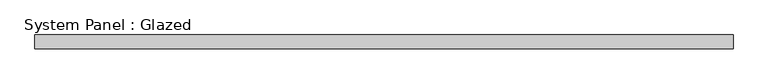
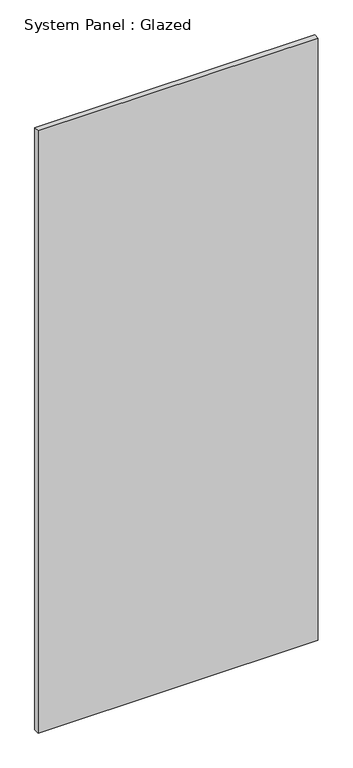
"""IFC4 building model written with IfcOpenShell, lengths in millimetres: plate geometry, System Panel : Glazed."""

from ifc_helpers import new_model, si_unit, origin, origin_with_axes, place, context, project, spatial, polyline, outline, extrude, source, transform, mapped, element, save


def system_panel_glazed_7117b3d7(model_context):
    return source(origin(), model_context, "Body", "SweptSolid", [
        extrude(outline(polyline([(650.0467279, 19.05), (-650.0467279, 19.05), (-650.0467279, 44.45), (650.0467279, 44.45), (650.0467279, 19.05)])), origin_with_axes(), (0.0, 0.0, 1.0), 2952.75),
    ])


if __name__ == "__main__":
    model = new_model("IFC4")
    model_context = context("Model", 3, world=origin())
    ifc_project = project(units=[si_unit("LENGTHUNIT", "METRE", prefix="MILLI")], contexts=[model_context])
    site = spatial("IfcSite", under=ifc_project)
    building = spatial("IfcBuilding", under=site)
    placement = place(None, origin())
    system_panel_glazed_shape = system_panel_glazed_7117b3d7(model_context)
    element("IfcPlate", 1, ObjectType="System Panel : Glazed", at=placement, inside=building, context=model_context, shape_type="MappedRepresentation", body=[
        mapped(system_panel_glazed_shape, transform((0.0, 0.0, 0.0), x_axis=(1.0, 0.0, 0.0), y_axis=(0.0, 1.0, 0.0), z_axis=(0.0, 0.0, 1.0))),
    ])
    save(model, "model.ifc")
